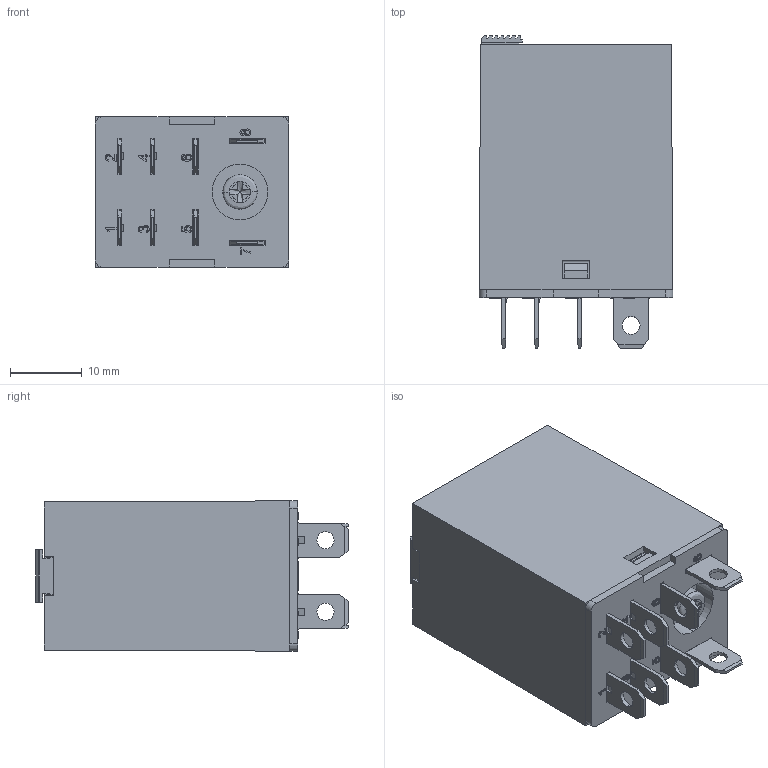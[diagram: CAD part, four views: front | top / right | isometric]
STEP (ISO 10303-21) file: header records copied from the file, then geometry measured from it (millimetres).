
FILE_DESCRIPTION (( 'STEP AP203' ), '1' );
FILE_NAME ('RKL2CO 俋倛.STEP', '2023-01-13T07:59:55', ( '' ), ( '' ), 'SwSTEP 2.0', 'SolidWorks 2018', '' );
FILE_SCHEMA (( 'CONFIG_CONTROL_DESIGN' ));
Length unit declared in the file: millimetre
Products named in the file (1): RKL2CO 俋倛
Bounding box: 27 x 43.7 x 21 mm (x, y, z)
Volume: 19767 mm3; surface area: 5735.8 mm2
Topology: 1 solids, 2 shells, 668 faces, 1814 edges, 1188 vertices
Faces by surface type: plane 477, cylinder 113, bspline 74, cone 4
Entity records: 24892 total; most frequent: CARTESIAN_POINT 8331, ORIENTED_EDGE 3628, DIRECTION 3028, EDGE_CURVE 1814, VECTOR 1404, LINE 1404, VERTEX_POINT 1188, AXIS2_PLACEMENT_3D 812
